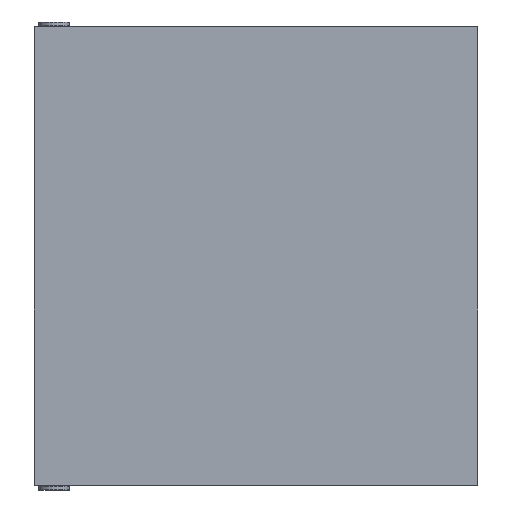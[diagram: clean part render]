
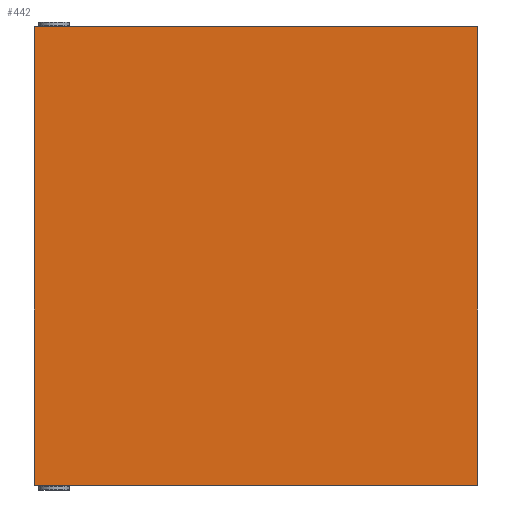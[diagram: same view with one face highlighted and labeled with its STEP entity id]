
A CAD part, top view. The second image highlights one B-rep face of the part: STEP entity #442.
In plain terms, the highlighted planar face has unit normal (0, 0, 1).
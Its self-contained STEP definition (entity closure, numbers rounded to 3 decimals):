
#138 = EDGE_CURVE ( 'NONE', #1883, #949, #1277, .T. ) ;
#200 = FACE_OUTER_BOUND ( 'NONE', #329, .T. ) ;
#264 = EDGE_CURVE ( 'NONE', #1190, #1327, #618, .T. ) ;
#329 = EDGE_LOOP ( 'NONE', ( #1850, #710, #1470, #656 ) ) ;
#336 = DIRECTION ( 'NONE',  ( 0., 1., 0. ) ) ;
#442 = ADVANCED_FACE ( 'NONE', ( #200 ), #556, .T. ) ;
#448 = CARTESIAN_POINT ( 'NONE',  ( 289.5, -300., 0. ) ) ;
#468 = VECTOR ( 'NONE', #595, 1000. ) ;
#536 = DIRECTION ( 'NONE',  ( 0., 0., 1. ) ) ;
#556 = PLANE ( 'NONE',  #1516 ) ;
#577 = EDGE_CURVE ( 'NONE', #949, #1190, #1252, .T. ) ;
#595 = DIRECTION ( 'NONE',  ( 1., 0., 0. ) ) ;
#618 = LINE ( 'NONE', #1958, #1418 ) ;
#656 = ORIENTED_EDGE ( 'NONE', *, *, #264, .T. ) ;
#695 = CARTESIAN_POINT ( 'NONE',  ( -290., 300., 0. ) ) ;
#710 = ORIENTED_EDGE ( 'NONE', *, *, #138, .T. ) ;
#771 = VECTOR ( 'NONE', #1926, 1000. ) ;
#838 = VECTOR ( 'NONE', #1074, 1000. ) ;
#856 = DIRECTION ( 'NONE',  ( 1., 0., 0. ) ) ;
#879 = CARTESIAN_POINT ( 'NONE',  ( 0., 0., 0. ) ) ;
#920 = CARTESIAN_POINT ( 'NONE',  ( -290., -300., 0. ) ) ;
#949 = VERTEX_POINT ( 'NONE', #1036 ) ;
#1036 = CARTESIAN_POINT ( 'NONE',  ( -289.5, -300., 0. ) ) ;
#1074 = DIRECTION ( 'NONE',  ( -1., 0., 0. ) ) ;
#1082 = CARTESIAN_POINT ( 'NONE',  ( -289.5, 0., 0. ) ) ;
#1190 = VERTEX_POINT ( 'NONE', #448 ) ;
#1233 = LINE ( 'NONE', #695, #838 ) ;
#1252 = LINE ( 'NONE', #920, #468 ) ;
#1277 = LINE ( 'NONE', #1082, #771 ) ;
#1327 = VERTEX_POINT ( 'NONE', #1641 ) ;
#1418 = VECTOR ( 'NONE', #336, 1000. ) ;
#1470 = ORIENTED_EDGE ( 'NONE', *, *, #577, .T. ) ;
#1516 = AXIS2_PLACEMENT_3D ( 'NONE', #879, #536, #856 ) ;
#1641 = CARTESIAN_POINT ( 'NONE',  ( 289.5, 300., 0. ) ) ;
#1850 = ORIENTED_EDGE ( 'NONE', *, *, #2106, .T. ) ;
#1883 = VERTEX_POINT ( 'NONE', #2112 ) ;
#1926 = DIRECTION ( 'NONE',  ( 0., -1., 0. ) ) ;
#1958 = CARTESIAN_POINT ( 'NONE',  ( 289.5, 0., 0. ) ) ;
#2106 = EDGE_CURVE ( 'NONE', #1327, #1883, #1233, .T. ) ;
#2112 = CARTESIAN_POINT ( 'NONE',  ( -289.5, 300., 0. ) ) ;
